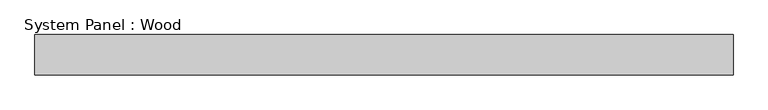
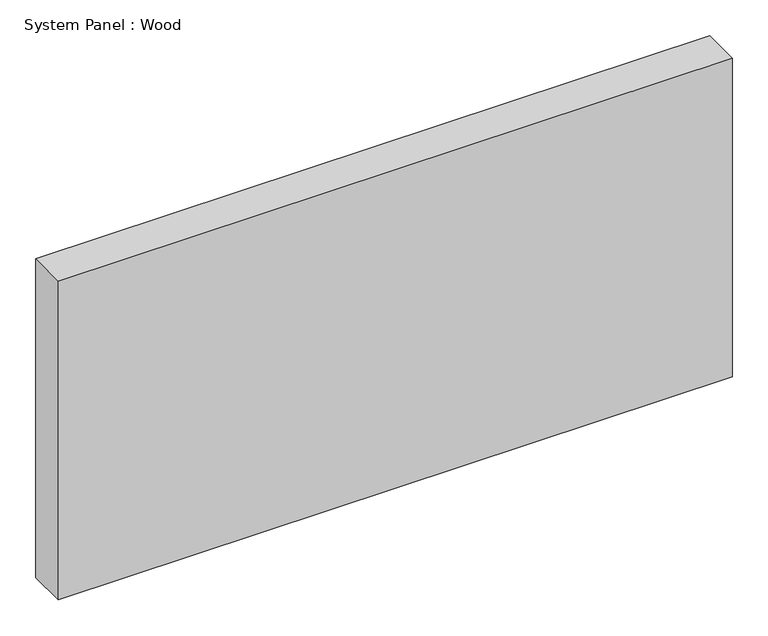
"""IFC4 building model written with IfcOpenShell, lengths in millimetres: plate geometry, System Panel : Wood."""

from ifc_helpers import new_model, si_unit, origin, origin_with_axes, place, context, project, spatial, polyline, outline, extrude, source, transform, mapped, element, save


def system_panel_wood_be4c5c0b(model_context):
    return source(origin(), model_context, "Body", "SweptSolid", [
        extrude(outline(polyline([(546.4175, -44.45), (-546.4175, -44.45), (-546.4175, 19.05), (546.4175, 19.05), (546.4175, -44.45)])), origin_with_axes(), (0.0, 0.0, 1.0), 546.1),
    ])


if __name__ == "__main__":
    model = new_model("IFC4")
    model_context = context("Model", 3, world=origin())
    ifc_project = project(units=[si_unit("LENGTHUNIT", "METRE", prefix="MILLI")], contexts=[model_context])
    site = spatial("IfcSite", under=ifc_project)
    building = spatial("IfcBuilding", under=site)
    placement = place(None, origin())
    system_panel_wood_shape = system_panel_wood_be4c5c0b(model_context)
    element("IfcPlate", 1, ObjectType="System Panel : Wood", at=placement, inside=building, context=model_context, shape_type="MappedRepresentation", body=[
        mapped(system_panel_wood_shape, transform((0.0, 0.0, 0.0), x_axis=(1.0, 0.0, 0.0), y_axis=(0.0, 1.0, 0.0), z_axis=(0.0, 0.0, 1.0))),
    ])
    save(model, "model.ifc")
